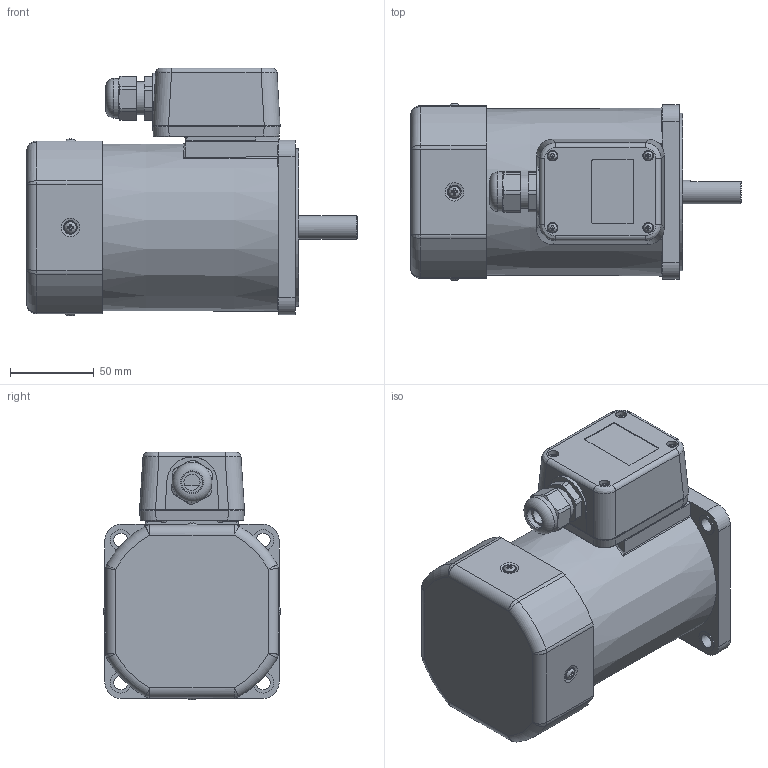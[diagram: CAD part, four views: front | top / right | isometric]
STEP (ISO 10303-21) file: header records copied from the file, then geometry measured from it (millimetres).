
FILE_DESCRIPTION((''),'2;1');
FILE_NAME('D:\작업\흐힠~\3D 모델링\S10I200D_-T.stp','2014-04-04T19:00:54',('jy-jung'),(''),'Autodesk Inventor 2011','Autodesk Inventor 2011','');
FILE_SCHEMA(('AUTOMOTIVE_DESIGN { 1 0 10303 214 1 1 1 1 }'));
Length unit declared in the file: millimetre
Products named in the file (1): S10I200D_-T
Bounding box: 197 x 105.57 x 147.78 mm (x, y, z)
Volume: 1360747.3 mm3; surface area: 138610.8 mm2
Topology: 1 solids, 10 shells, 531 faces, 1317 edges, 825 vertices
Faces by surface type: plane 260, cylinder 147, bspline 61, torus 40, cone 23
Full cylindrical faces by diameter (mm): 2.55 x2, 4 x4, 5 x4, 5.6 x4, 6.3 x4, 7 x4, 8.5 x4, 12.5 x5, 14 x1, 15 x1, 20 x2, 21 x1, 23.6 x1, 43 x1, 94 x1, 98 x1
Entity records: 18320 total; most frequent: CARTESIAN_POINT 6180, ORIENTED_EDGE 2324, DIRECTION 2271, EDGE_CURVE 1162, AXIS2_PLACEMENT_3D 833, VERTEX_POINT 785, EDGE_LOOP 679, VECTOR 605
